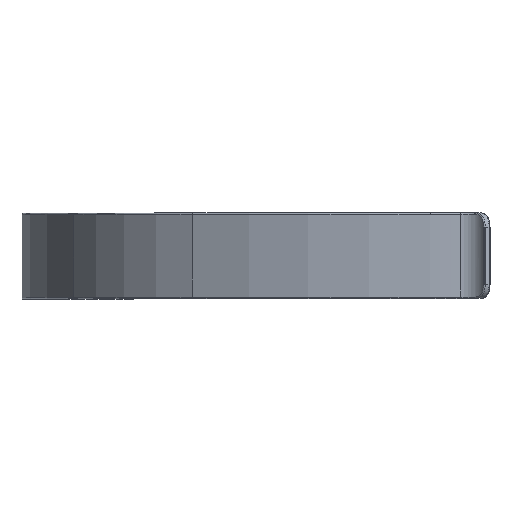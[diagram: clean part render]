
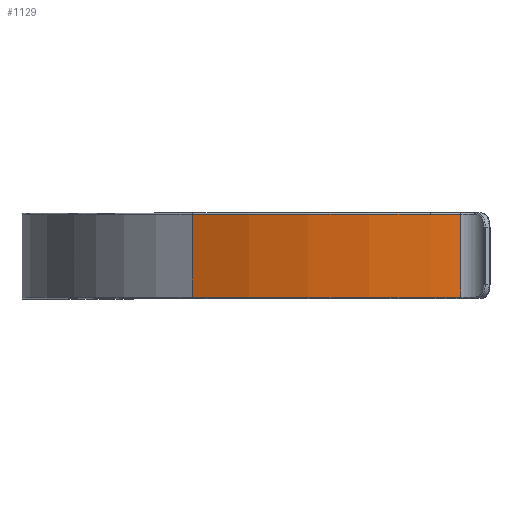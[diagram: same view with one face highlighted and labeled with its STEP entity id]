
A CAD part, top view. The second image highlights one B-rep face of the part: STEP entity #1129.
In plain terms, the highlighted cylindrical face has radius 70.365 mm (diameter 140.73 mm), a partial arc.
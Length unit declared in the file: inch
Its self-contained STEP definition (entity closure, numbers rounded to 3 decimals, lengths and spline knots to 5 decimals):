
#19 = CARTESIAN_POINT ( 'NONE',  ( -0.16579, 0.22835, 2.13095 ) ) ;
#47 = EDGE_LOOP ( 'NONE', ( #1241, #1971, #1504, #685, #941, #2846 ) ) ;
#67 = EDGE_CURVE ( 'NONE', #496, #2050, #1309, .T. ) ;
#100 = CARTESIAN_POINT ( 'NONE',  ( -1.47966, -0.22835, 1.79956 ) ) ;
#108 = VERTEX_POINT ( 'NONE', #100 ) ;
#198 = VECTOR ( 'NONE', #917, 39.37008 ) ;
#224 = CARTESIAN_POINT ( 'NONE',  ( -0.16579, 0.22835, -0.63932 ) ) ;
#236 = CARTESIAN_POINT ( 'NONE',  ( 0., -0.22835, 2.12598 ) ) ;
#337 = FACE_OUTER_BOUND ( 'NONE', #47, .T. ) ;
#377 = CIRCLE ( 'NONE', #1757, 2.77027 ) ;
#386 = VECTOR ( 'NONE', #1474, 39.37008 ) ;
#457 = DIRECTION ( 'NONE',  ( 0., -1., 0. ) ) ;
#496 = VERTEX_POINT ( 'NONE', #3136 ) ;
#589 = EDGE_CURVE ( 'NONE', #2112, #2050, #2449, .T. ) ;
#638 = CIRCLE ( 'NONE', #1015, 2.77027 ) ;
#648 = DIRECTION ( 'NONE',  ( 0., 1., 0. ) ) ;
#685 = ORIENTED_EDGE ( 'NONE', *, *, #589, .F. ) ;
#710 = LINE ( 'NONE', #2804, #386 ) ;
#830 = AXIS2_PLACEMENT_3D ( 'NONE', #3199, #648, #2706 ) ;
#870 = CARTESIAN_POINT ( 'NONE',  ( -0.16579, 0.22835, -0.63932 ) ) ;
#878 = AXIS2_PLACEMENT_3D ( 'NONE', #1011, #1771, #1104 ) ;
#917 = DIRECTION ( 'NONE',  ( 0., -1., 0. ) ) ;
#941 = ORIENTED_EDGE ( 'NONE', *, *, #1191, .T. ) ;
#960 = CARTESIAN_POINT ( 'NONE',  ( -1.47966, 0.22835, 1.79956 ) ) ;
#1011 = CARTESIAN_POINT ( 'NONE',  ( -0.16579, 0.23622, -0.63932 ) ) ;
#1015 = AXIS2_PLACEMENT_3D ( 'NONE', #870, #2180, #3273 ) ;
#1104 = DIRECTION ( 'NONE',  ( 0., 0., -1. ) ) ;
#1129 = ADVANCED_FACE ( 'NONE', ( #337 ), #2026, .T. ) ;
#1191 = EDGE_CURVE ( 'NONE', #2112, #2536, #638, .T. ) ;
#1198 = DIRECTION ( 'NONE',  ( 0., 1., 0. ) ) ;
#1241 = ORIENTED_EDGE ( 'NONE', *, *, #2056, .T. ) ;
#1309 = CIRCLE ( 'NONE', #830, 2.77027 ) ;
#1399 = DIRECTION ( 'NONE',  ( 0., 0., 1. ) ) ;
#1467 = EDGE_CURVE ( 'NONE', #108, #496, #377, .T. ) ;
#1474 = DIRECTION ( 'NONE',  ( 0., -1., 0. ) ) ;
#1504 = ORIENTED_EDGE ( 'NONE', *, *, #67, .T. ) ;
#1757 = AXIS2_PLACEMENT_3D ( 'NONE', #2722, #1198, #1399 ) ;
#1771 = DIRECTION ( 'NONE',  ( 0., -1., 0. ) ) ;
#1894 = CARTESIAN_POINT ( 'NONE',  ( 0., 0.23622, 2.12598 ) ) ;
#1971 = ORIENTED_EDGE ( 'NONE', *, *, #1467, .T. ) ;
#2026 = CYLINDRICAL_SURFACE ( 'NONE', #878, 2.77027 ) ;
#2050 = VERTEX_POINT ( 'NONE', #236 ) ;
#2056 = EDGE_CURVE ( 'NONE', #2445, #108, #710, .T. ) ;
#2112 = VERTEX_POINT ( 'NONE', #2254 ) ;
#2180 = DIRECTION ( 'NONE',  ( 0., -1., 0. ) ) ;
#2254 = CARTESIAN_POINT ( 'NONE',  ( 0., 0.22835, 2.12598 ) ) ;
#2445 = VERTEX_POINT ( 'NONE', #960 ) ;
#2449 = LINE ( 'NONE', #1894, #198 ) ;
#2536 = VERTEX_POINT ( 'NONE', #19 ) ;
#2706 = DIRECTION ( 'NONE',  ( 0., 0., 1. ) ) ;
#2722 = CARTESIAN_POINT ( 'NONE',  ( -0.16579, -0.22835, -0.63932 ) ) ;
#2804 = CARTESIAN_POINT ( 'NONE',  ( -1.47966, 0.23622, 1.79956 ) ) ;
#2806 = DIRECTION ( 'NONE',  ( 0., 0., 1. ) ) ;
#2846 = ORIENTED_EDGE ( 'NONE', *, *, #3032, .T. ) ;
#2893 = CIRCLE ( 'NONE', #3165, 2.77027 ) ;
#3032 = EDGE_CURVE ( 'NONE', #2536, #2445, #2893, .T. ) ;
#3136 = CARTESIAN_POINT ( 'NONE',  ( -0.16579, -0.22835, 2.13095 ) ) ;
#3165 = AXIS2_PLACEMENT_3D ( 'NONE', #224, #457, #2806 ) ;
#3199 = CARTESIAN_POINT ( 'NONE',  ( -0.16579, -0.22835, -0.63932 ) ) ;
#3273 = DIRECTION ( 'NONE',  ( 0., 0., 1. ) ) ;
